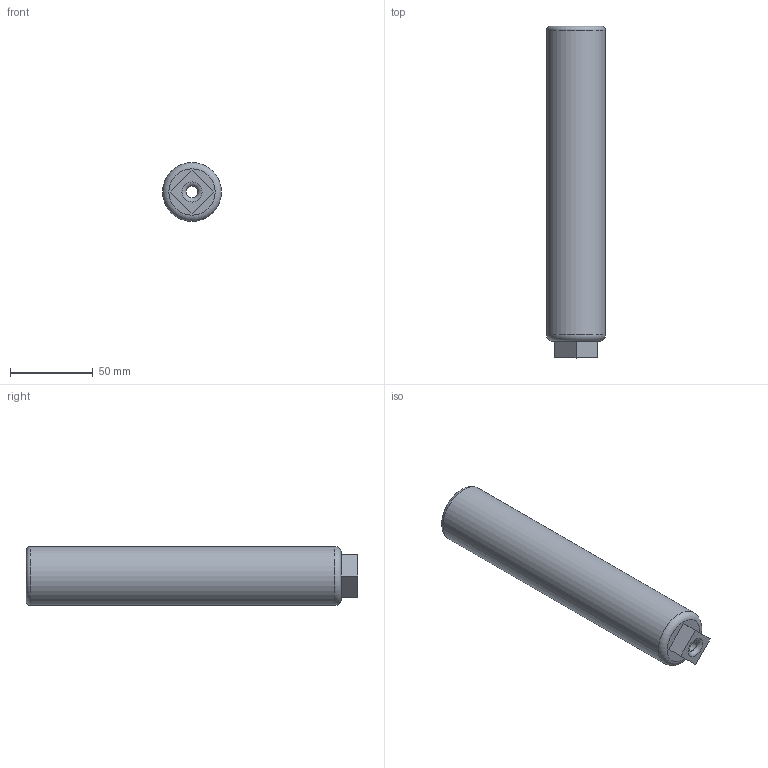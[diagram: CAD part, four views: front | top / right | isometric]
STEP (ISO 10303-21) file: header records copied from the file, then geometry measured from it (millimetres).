
FILE_DESCRIPTION(/* description */ (''),/* implementation_level */ '2;1');
FILE_NAME(/* name */ 'C:/Users/Owner/Desktop/liberator suppressed/STEP Files/22 Caliber versions/22 Cal Liberator Suppressor can 7.9 inch.step',/* time_stamp */ '2020-04-23T22:19:07-04:00',/* author */ (''),/* organization */ (''),/* preprocessor_version */ 'ST-DEVELOPER v18.1',/* originating_system */ 'Autodesk Translation Framework v9.2.0.1227',/* authorisation */ '');
FILE_SCHEMA (('AUTOMOTIVE_DESIGN { 1 0 10303 214 3 1 1 }'));
Length unit declared in the file: inch
Products named in the file (1): 22 cal lib sup 7.9 inch
Bounding box: 35.56 x 200.66 x 35.56 mm (x, y, z)
Volume: 121772.7 mm3; surface area: 38879.5 mm2
Topology: 1 solids, 1 shells, 50 faces, 136 edges, 90 vertices
Faces by surface type: cylinder 34, plane 9, torus 5, bspline 2
Full cylindrical faces by diameter (mm): 7.112 x1, 22.288 x15, 25.4 x14, 35.56 x1
Entity records: 4524 total; most frequent: CARTESIAN_POINT 3310, ORIENTED_EDGE 272, DIRECTION 207, EDGE_CURVE 136, VERTEX_POINT 90, AXIS2_PLACEMENT_3D 81, B_SPLINE_CURVE_WITH_KNOTS 59, EDGE_LOOP 54
